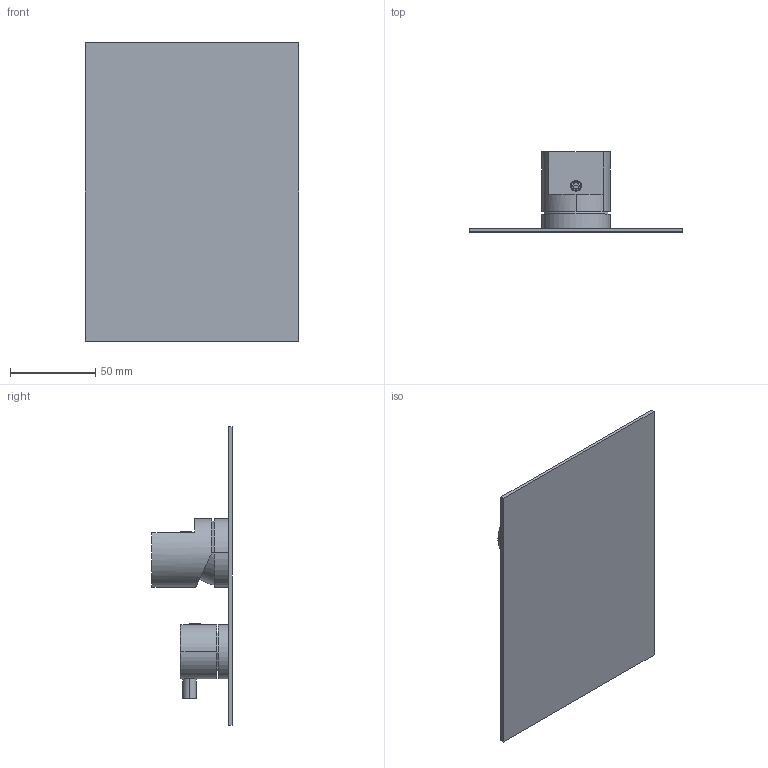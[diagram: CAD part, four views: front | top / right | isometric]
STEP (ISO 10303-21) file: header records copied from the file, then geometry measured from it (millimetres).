
FILE_DESCRIPTION((''),'2;1');
FILE_NAME('8954121_SW0001','2020-06-18T14:30:45',('carloff'),(''),'CREO PARAMETRIC BY PTC INC, 2018100','CREO PARAMETRIC BY PTC INC, 2018100','');
FILE_SCHEMA(('CONFIG_CONTROL_DESIGN'));
Length unit declared in the file: millimetre
Products named in the file (1): 8954121_SW0001
Bounding box: 125 x 47 x 175 mm (x, y, z)
Volume: 101302.4 mm3; surface area: 64917.3 mm2
Topology: 1 solids, 3 shells, 217 faces, 585 edges, 371 vertices
Faces by surface type: plane 101, cylinder 62, cone 30, torus 18, sphere 4, bspline 2
Entity records: 7353 total; most frequent: CARTESIAN_POINT 1848, ORIENTED_EDGE 1154, DIRECTION 1150, EDGE_CURVE 577, AXIS2_PLACEMENT_3D 428, VERTEX_POINT 371, VECTOR 294, LINE 294
